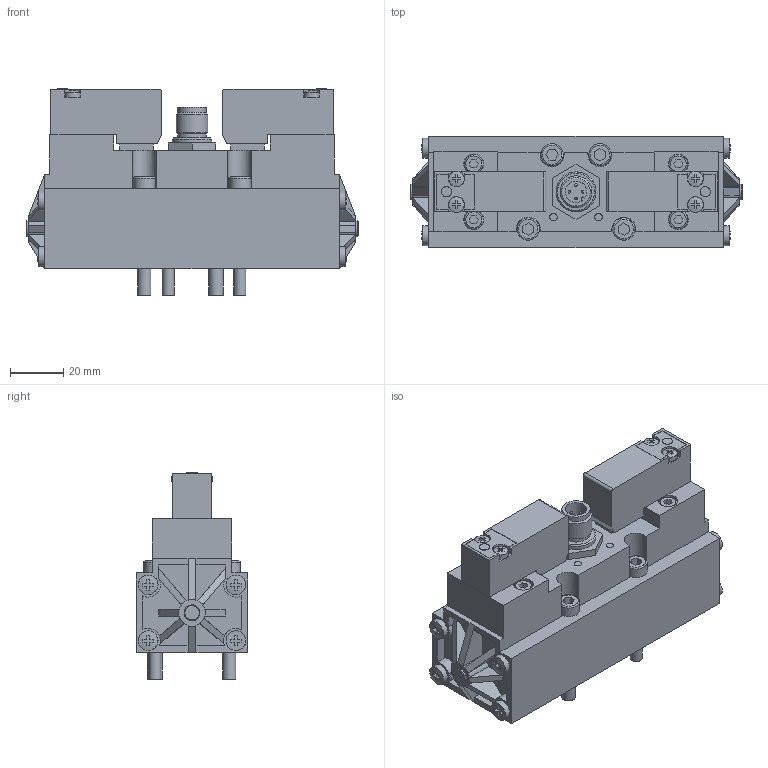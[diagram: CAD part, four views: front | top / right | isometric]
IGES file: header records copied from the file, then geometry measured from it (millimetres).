
Global section: file name: No Iges File Name specified; native system: Autodesk Inventor 2013; preprocessor: AutoDesk Inventor Iges Exporter R2013; author: valotma1; date: 20140318.133549; units: millimetre
Bounding box: 125 x 42 x 77.7 mm (x, y, z)
Volume: 217618.9 mm3; surface area: 40430.4 mm2
Topology: 5 solids, 9 shells, 571 faces, 1468 edges, 975 vertices
Faces by surface type: bspline 571
